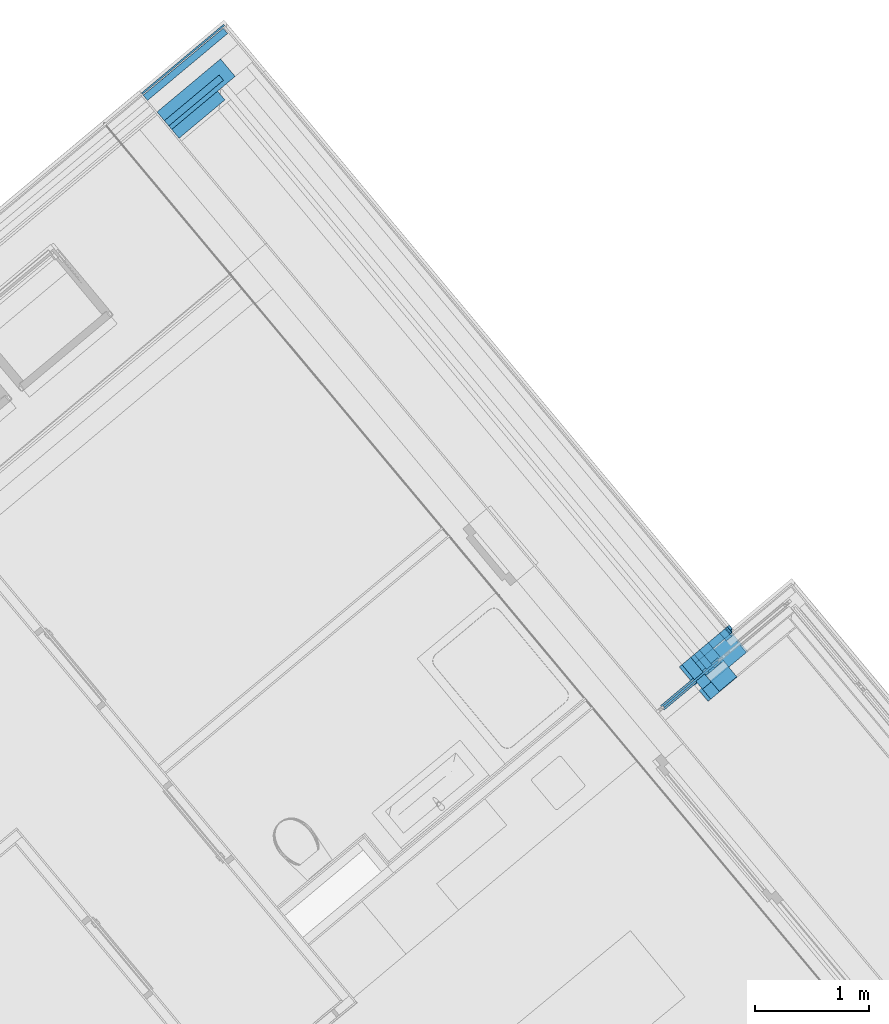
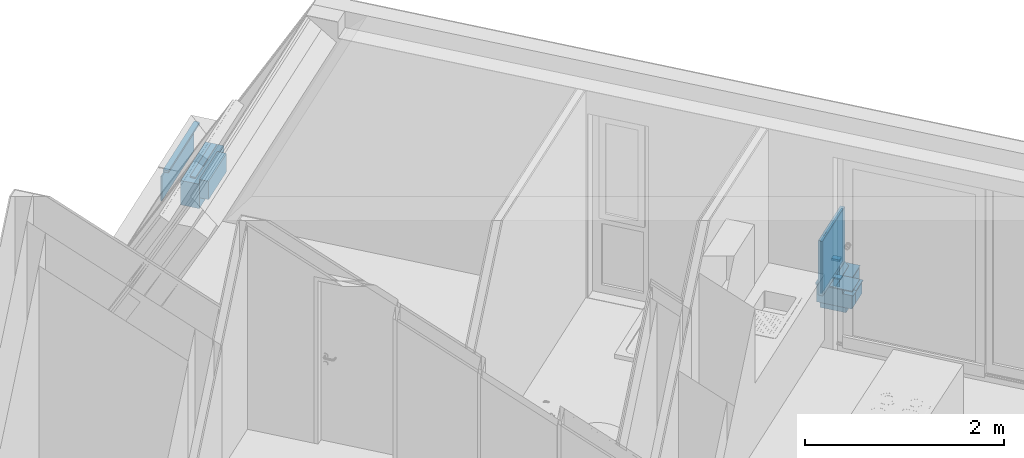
# One storey, part 50 of 61: 15 building element parts, 3 elements without a shape of their own.
"""IFC4 building model written with IfcOpenShell, lengths in metres."""

import ifcopenshell
import ifcopenshell.guid

model = None  # the IFC model being written
_history = None  # IfcOwnerHistory: only IFC2X3 demands one
_inside = {}  # id of a spatial element -> (the spatial element, [elements in it])
_under = {}  # id of a project, library or spatial element -> (it, [spatial elements below it])
_declared = {}  # id of a project -> (the project, [libraries it declares])
_typed = {}  # id of a type object -> (the type object, [elements of that type])
_made_of = {}  # id of a material, layer set ... -> (it, [elements and type objects made of it])


def new_model(schema):
    """Start an empty IFC model of exactly this schema.

    Asked for "IFC4X3", IfcOpenShell would pick the latest addendum, in which some entities
    have other attributes; the version numbers below select the first issue.
    IFC2X3 requires an IfcOwnerHistory on every rooted entity: one is made here for all.
    """
    global model, _history
    if schema == "IFC4X3":
        model = ifcopenshell.file(schema_version=(4, 3, 0, 0))
    else:
        model = ifcopenshell.file(schema=schema)
    _inside.clear()
    _under.clear()
    _declared.clear()
    _typed.clear()
    _made_of.clear()
    _history = None
    if model.schema == "IFC2X3":
        org = make("IfcOrganization", Name="unknown")
        user = make(
            "IfcPersonAndOrganization",
            ThePerson=make("IfcPerson", FamilyName="unknown"),
            TheOrganization=org,
        )
        app = make(
            "IfcApplication",
            ApplicationDeveloper=org,
            Version="unknown",
            ApplicationFullName="unknown",
            ApplicationIdentifier="unknown",
        )
        _history = make(
            "IfcOwnerHistory",
            OwningUser=user,
            OwningApplication=app,
            ChangeAction="ADDED",
            CreationDate=0,
        )
    return model


def make(cls, **values):
    """One entity of the class cls with the attributes given. An attribute that is None is left unset."""
    return model.create_entity(
        cls, **{name: value for name, value in values.items() if value is not None}
    )


def entity(cls, *values):
    """Any entity or typed value of the class cls, its attributes in the order of the schema. None: left unset."""
    e = model.create_entity(cls)
    for i, value in enumerate(values):
        if value is not None:
            e[i] = value
    return e


def rooted(cls, **values):
    """An entity with a GlobalId (a new one), such as an element, a storey or a relation."""
    return make(cls, GlobalId=ifcopenshell.guid.new(), OwnerHistory=_history, **values)


def si_unit(unit_type, name, prefix=None):
    """IfcSIUnit, for example si_unit("LENGTHUNIT", "METRE", prefix="MILLI")."""
    return make("IfcSIUnit", UnitType=unit_type, Prefix=prefix, Name=name)


def converted_unit(unit_type, name, factor, base, dimensions=None, offset=None):
    """IfcConversionBasedUnit, such as the inch: factor (a typed value) times the base unit."""
    return make(
        "IfcConversionBasedUnit"
        if offset is None
        else "IfcConversionBasedUnitWithOffset",
        ConversionOffset=offset,
        Dimensions=None
        if dimensions is None
        else entity("IfcDimensionalExponents", *dimensions),
        UnitType=unit_type,
        Name=name,
        ConversionFactor=make(
            "IfcMeasureWithUnit", ValueComponent=factor, UnitComponent=base
        ),
    )


def derived_unit(unit_type, elements):
    """IfcDerivedUnit: a product of units, each with its exponent."""
    return make(
        "IfcDerivedUnit",
        Elements=[
            make("IfcDerivedUnitElement", Unit=unit, Exponent=power)
            for unit, power in elements
        ],
        UnitType=unit_type,
    )


def assignment(units):
    """IfcUnitAssignment: the units of a project."""
    return None if units is None else make("IfcUnitAssignment", Units=units)


def point(xyz):
    """IfcCartesianPoint."""
    return None if xyz is None else make("IfcCartesianPoint", Coordinates=xyz)


def direction(xyz):
    """IfcDirection."""
    return None if xyz is None else make("IfcDirection", DirectionRatios=xyz)


def frame(location, z_axis=None, x_axis=None):
    """IfcAxis2Placement3D, a coordinate frame: its origin and axes. An axis left out is left unset."""
    return make(
        "IfcAxis2Placement3D",
        Location=point(location),
        Axis=direction(z_axis),
        RefDirection=direction(x_axis),
    )


def origin_with_axes():
    """The frame at (0, 0, 0) with the z axis (0, 0, 1) and the x axis (1, 0, 0) written out."""
    return frame((0.0, 0.0, 0.0), z_axis=(0.0, 0.0, 1.0), x_axis=(1.0, 0.0, 0.0))


def place(relative_to, where):
    """IfcLocalPlacement: puts the frame where relative to a parent placement (None: the world)."""
    return make(
        "IfcLocalPlacement", PlacementRelTo=relative_to, RelativePlacement=where
    )


def context(
    kind, dimensions, precision=None, world=None, true_north=None, identifier=None
):
    """IfcGeometricRepresentationContext, for example the 3D "Model" context."""
    return make(
        "IfcGeometricRepresentationContext",
        ContextIdentifier=identifier,
        ContextType=kind,
        CoordinateSpaceDimension=dimensions,
        Precision=precision,
        WorldCoordinateSystem=world,
        TrueNorth=true_north,
    )


def subcontext(parent, identifier, kind, view, scale=None):
    """IfcGeometricRepresentationSubContext, for example "Body" below "Model"."""
    return make(
        "IfcGeometricRepresentationSubContext",
        ContextIdentifier=identifier,
        ContextType=kind,
        ParentContext=parent,
        TargetScale=scale,
        TargetView=view,
    )


def project(units=None, contexts=None):
    """IfcProject with its units and contexts."""
    return rooted(
        "IfcProject",
        Name="project",
        RepresentationContexts=contexts,
        UnitsInContext=assignment(units),
    )


def spatial(cls, under=None, at=None, **own):
    """A site, building, storey or space (cls), placed at a placement, below another one or the project."""
    s = rooted(cls, ObjectPlacement=at, **own)
    if under is not None:
        _under.setdefault(under.id(), (under, []))[1].append(s)
    return s


def point_list(points):
    """IfcCartesianPointList2D or 3D."""
    cls = (
        "IfcCartesianPointList2D" if len(points[0]) == 2 else "IfcCartesianPointList3D"
    )
    return make(cls, CoordList=points)


def polygons(points, faces, closed=None, point_numbers=None):
    """IfcPolygonalFaceSet: a face is its outer loop, then its inner loops; points numbered from 1."""
    made = []
    for loops in faces:
        if len(loops) == 1:
            made.append(make("IfcIndexedPolygonalFace", CoordIndex=loops[0]))
        else:
            made.append(
                make(
                    "IfcIndexedPolygonalFaceWithVoids",
                    CoordIndex=loops[0],
                    InnerCoordIndices=loops[1:],
                )
            )
    return make(
        "IfcPolygonalFaceSet",
        Coordinates=point_list(points),
        Closed=closed,
        Faces=made,
        PnIndex=point_numbers,
    )


def shape(context_of_items, identifier, shape_type, items):
    """IfcShapeRepresentation: the items that make up one representation, for example the "Body"."""
    return make(
        "IfcShapeRepresentation",
        ContextOfItems=context_of_items,
        RepresentationIdentifier=identifier,
        RepresentationType=shape_type,
        Items=items,
    )


def material(Name=None, Category=None):
    """IfcMaterial."""
    return make("IfcMaterial", Name=Name, Category=Category)


def made_of(thing, what):
    """Note that an element or type object is made of a material, layer set ...; save() writes the relation."""
    if what is not None:
        _made_of.setdefault(what.id(), (what, []))[1].append(thing)
    return thing


def type_object(cls, material=None, **own):
    """A type object (cls), such as IfcWallType, which elements share."""
    return made_of(rooted(cls, **own), material)


def element(
    cls,
    number,
    at=None,
    inside=None,
    cuts=None,
    type_object=None,
    material=None,
    context=None,
    identifier="Body",
    shape_type=None,
    held_by="IfcProductDefinitionShape",
    body=None,
    shapes=None,
    **own,
):
    """One element of the class cls, such as IfcWall. Its Tag is "e" and its number.

    at: its placement. inside: the storey or other place that contains it. cuts: it is an
    opening in that element (IfcRelVoidsElement). A single representation is given by context,
    identifier, shape_type and body (its items); several are given by shapes. held_by: the class
    of the entity that holds the representations. save() writes the other relations.
    """
    e = rooted(cls, Tag="e%d" % number, ObjectPlacement=at, **own)
    if body is not None:
        shapes = [shape(context, identifier, shape_type, body)]
    if shapes is not None:
        e.Representation = make(held_by, Representations=shapes)
    if inside is not None:
        _inside.setdefault(inside.id(), (inside, []))[1].append(e)
    if cuts is not None:
        rooted(
            "IfcRelVoidsElement", RelatingBuildingElement=cuts, RelatedOpeningElement=e
        )
    if type_object is not None:
        _typed.setdefault(type_object.id(), (type_object, []))[1].append(e)
    return made_of(e, material)


def aggregate(whole, parts):
    """IfcRelAggregates: a whole, such as a stair, and the parts it consists of."""
    return rooted("IfcRelAggregates", RelatingObject=whole, RelatedObjects=parts)


def save(model, path):
    """Write the relations noted so far, then the file.

    IfcRelAggregates (storeys below a building ...), IfcRelContainedInSpatialStructure (elements
    in a storey), IfcRelDefinesByType, IfcRelAssociatesMaterial and IfcRelDeclares: one each for
    every whole, place, type object, material and project.
    """
    for whole, parts in _under.values():
        aggregate(whole, parts)
    for where, things in _inside.values():
        rooted(
            "IfcRelContainedInSpatialStructure",
            RelatedElements=things,
            RelatingStructure=where,
        )
    for kind, things in _typed.values():
        rooted("IfcRelDefinesByType", RelatedObjects=things, RelatingType=kind)
    for what, things in _made_of.values():
        rooted("IfcRelAssociatesMaterial", RelatedObjects=things, RelatingMaterial=what)
    for by, libraries in _declared.values():
        rooted("IfcRelDeclares", RelatingContext=by, RelatedDefinitions=libraries)
    model.write(path)


model = new_model("IFC4")

# Units and contexts
model_context = context("Model", 3, precision=1e-05, world=origin_with_axes(), true_north=direction((0.0, 1.0)))
body_context = subcontext(model_context, "Body", "Model", "MODEL_VIEW")
ifc_project = project(units=[si_unit("LENGTHUNIT", "METRE"), si_unit("AREAUNIT", "SQUARE_METRE"), si_unit("VOLUMEUNIT", "CUBIC_METRE"), converted_unit("PLANEANGLEUNIT", "DEGREE", entity("IfcPlaneAngleMeasure", 0.0174532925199), si_unit("PLANEANGLEUNIT", "RADIAN"), dimensions=[0, 0, 0, 0, 0, 0, 0]), converted_unit("TIMEUNIT", "Year", entity("IfcTimeMeasure", 31556926.0), si_unit("TIMEUNIT", "SECOND"), dimensions=[0, 0, 1, 0, 0, 0, 0]), si_unit("MASSUNIT", "GRAM", prefix="KILO"), si_unit("THERMODYNAMICTEMPERATUREUNIT", "DEGREE_CELSIUS"), si_unit("LUMINOUSINTENSITYUNIT", "LUMEN"), si_unit("ENERGYUNIT", "JOULE", prefix="MEGA"), derived_unit("THERMALCONDUCTANCEUNIT", [(si_unit("POWERUNIT", "WATT"), 1), (si_unit("LENGTHUNIT", "METRE"), -1), (si_unit("THERMODYNAMICTEMPERATUREUNIT", "KELVIN"), -1)]), derived_unit("SPECIFICHEATCAPACITYUNIT", [(si_unit("ENERGYUNIT", "JOULE"), 1), (si_unit("MASSUNIT", "GRAM", prefix="KILO"), -1), (si_unit("THERMODYNAMICTEMPERATUREUNIT", "KELVIN"), -1)]), derived_unit("MASSDENSITYUNIT", [(si_unit("MASSUNIT", "GRAM", prefix="KILO"), 1), (si_unit("VOLUMEUNIT", "CUBIC_METRE"), -1)])], contexts=[model_context])

# Site, building, storey
site_placement = place(None, frame((-0.00153261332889, -0.00661245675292, 0.0), z_axis=(0.0, 0.0, 1.0), x_axis=(1.0, 0.0, 0.0)))
site = spatial("IfcSite", under=ifc_project, at=site_placement, Name="Gelände", CompositionType="ELEMENT")
building_placement = place(site_placement, origin_with_axes())
building = spatial("IfcBuilding", under=site, at=building_placement, Name="Gebäude", CompositionType="ELEMENT")
storey_placement = place(building_placement, frame((0.0, 0.0, 5.7), z_axis=(0.0, 0.0, 1.0), x_axis=(1.0, 0.0, 0.0)))
storey = spatial("IfcBuildingStorey", under=building, at=storey_placement, Name="DG1", CompositionType="ELEMENT", Elevation=5.7)

# Wall, building element parts
wall_type = type_object("IfcWallType", Name="Bauteil - Attika Terrasse 1.DG 574 x 410", PredefinedType="NOTDEFINED")
wall_1_placement = place(storey_placement, frame((9.8973799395, 25.5957671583, -0.2), z_axis=(0.0, 0.0, 1.0), x_axis=(0.641209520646, -0.767365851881, 0.0)))
wall_1 = element("IfcWall", 1, at=wall_1_placement, inside=storey, type_object=wall_type, Name="Wand-003", PredefinedType="NOTDEFINED")
ifc_material_1 = material(Name="Zementputz")
building_element_part_1_placement = place(wall_1_placement, origin_with_axes())
building_element_part_1 = element("IfcBuildingElementPart", 2, at=building_element_part_1_placement, material=ifc_material_1, Name="Zementputz", PredefinedType="NOTDEFINED", context=body_context, shape_type="Tessellation", body=[
    polygons([(0.0650006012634, 0.199999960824, 0.500000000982), (0.0650006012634, 0.214999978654, 0.500000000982), (0.0, 0.214999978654, 0.499999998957), (0.0, 0.199999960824, 0.499999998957), (0.0650006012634, 0.214999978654, 0.498915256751), (0.0650006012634, 0.199999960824, 0.498915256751), (0.0650006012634, 0.214999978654, 0.498822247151), (0.0650006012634, 0.214999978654, 0.496604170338), (0.0650006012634, 0.214999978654, 0.49100648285), (0.0650006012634, 0.214999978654, 0.488695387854), (0.0650006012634, 0.214999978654, 0.334999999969), (0.0650006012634, 0.214999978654, 0.2), (0.0, 0.214999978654, 0.2), (0.0, 0.199999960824, 0.2), (0.0650006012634, 0.199999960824, 0.2), (0.0650006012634, 0.199999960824, 0.334999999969), (0.0650006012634, 0.199999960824, 0.488695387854), (0.0650006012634, 0.199999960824, 0.49100648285), (0.0650006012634, 0.199999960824, 0.496604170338), (0.0650006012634, 0.199999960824, 0.498822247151)], [[[1, 2, 3, 4]], [[5, 2, 1, 6]], [[2, 5, 7, 8, 9, 10, 11, 12, 13, 3]], [[13, 14, 4, 3]], [[6, 1, 4, 14, 15, 16, 17, 18, 19, 20]], [[5, 6, 20, 7]], [[7, 20, 19, 8]], [[8, 19, 18, 9]], [[9, 18, 17, 10]], [[10, 17, 16, 11]], [[11, 16, 15, 12]], [[12, 15, 14, 13]]], closed=True),
])
ifc_material_2 = material(Name="Vollholz")
building_element_part_2_placement = place(wall_1_placement, origin_with_axes())
building_element_part_2 = element("IfcBuildingElementPart", 3, at=building_element_part_2_placement, material=ifc_material_2, Name="Vollholz", PredefinedType="NOTDEFINED", context=body_context, shape_type="Tessellation", body=[
    polygons([(0.0900156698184, 0.189984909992, 0.586106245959), (0.0900044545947, 0.189996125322, 0.584015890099), (0.0899932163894, 0.190007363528, 0.581921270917), (0.0899819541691, 0.190018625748, 0.57982217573), (0.0899613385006, 0.190039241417, 0.575979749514), (0.0899591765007, 0.190041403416, 0.575576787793), (0.0899500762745, 0.190050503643, 0.573880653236), (0.0899182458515, 0.190082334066, 0.567947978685), (0.0898756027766, 0.190124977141, 0.560000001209), (0.0, 0.190124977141, 0.560000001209), (0.0, 0.189984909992, 0.586106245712), (0.0900044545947, 0.130124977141, 0.584015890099), (0.0899932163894, 0.130124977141, 0.581921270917), (0.0899819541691, 0.130124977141, 0.57982217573), (0.0899613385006, 0.130124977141, 0.575979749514), (0.0899591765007, 0.130124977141, 0.575576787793), (0.0899500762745, 0.130124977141, 0.573880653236), (0.0899182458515, 0.130124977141, 0.567947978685), (0.0898756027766, 0.130124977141, 0.560000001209), (0.0, 0.130124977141, 0.560000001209), (0.0, 0.130124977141, 0.584015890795)], [[[1, 2, 3, 4, 5, 6, 7, 8, 9, 10, 11]], [[12, 2, 1]], [[2, 12, 13, 3]], [[3, 13, 14, 4]], [[4, 14, 15, 5]], [[5, 15, 16, 6]], [[6, 16, 17, 7]], [[7, 17, 18, 8]], [[8, 18, 19, 9]], [[9, 19, 20, 10]], [[21, 11, 10, 20]], [[12, 1, 11, 21]], [[13, 12, 21, 20, 19, 18, 17, 16, 15, 14]]], closed=True),
])
ifc_material_3 = material(Name="EPS 1")
building_element_part_3_placement = place(wall_1_placement, origin_with_axes())
building_element_part_3 = element("IfcBuildingElementPart", 4, at=building_element_part_3_placement, material=ifc_material_3, Name="EPS 1", PredefinedType="NOTDEFINED", context=body_context, shape_type="Tessellation", body=[
    polygons([(0.280000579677, 2.39904096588e-10, 0.499999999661), (0.280000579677, 0.19999996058, 0.499999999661), (0.0, 0.19999996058, 0.499999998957), (0.0, 2.39907649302e-10, 0.499999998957), (0.280000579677, 0.19999996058, 0.498915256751), (0.280000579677, 2.39904096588e-10, 0.498915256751), (0.280000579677, 0.19999996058, 0.498822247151), (0.280000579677, 0.19999996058, 0.496604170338), (0.280000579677, 0.19999996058, 0.49100648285), (0.280000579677, 0.19999996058, 0.488695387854), (0.280000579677, 0.19999996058, 0.334999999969), (0.2800005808, 0.19999996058, 0.199999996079), (0.0, 0.19999996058, 0.2), (0.0, 2.39907649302e-10, 0.2), (0.2800005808, 2.39904096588e-10, 0.199999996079), (0.280000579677, 2.39904096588e-10, 0.334999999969), (0.280000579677, 2.39904096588e-10, 0.488695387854), (0.280000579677, 2.39904096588e-10, 0.49100648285), (0.280000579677, 2.39904096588e-10, 0.496604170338), (0.280000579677, 2.39904096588e-10, 0.498822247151)], [[[1, 2, 3, 4]], [[5, 2, 1, 6]], [[2, 5, 7, 8, 9, 10, 11, 12, 13, 3]], [[14, 4, 3, 13]], [[6, 1, 4, 14, 15, 16, 17, 18, 19, 20]], [[5, 6, 20, 7]], [[7, 20, 19, 8]], [[8, 19, 18, 9]], [[9, 18, 17, 10]], [[10, 17, 16, 11]], [[11, 16, 15, 12]], [[13, 12, 15, 14]]], closed=True),
])
ifc_material_4 = material(Name="Brettschichtholz")
building_element_part_4_placement = place(wall_1_placement, origin_with_axes())
building_element_part_4 = element("IfcBuildingElementPart", 5, at=building_element_part_4_placement, material=ifc_material_4, Name="Brettschichtholz", PredefinedType="NOTDEFINED", context=body_context, shape_type="Tessellation", body=[
    polygons([(0.0650006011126, 0.190124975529, 0.560000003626), (0.0650006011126, 0.214999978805, 0.560000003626), (0.0, 0.214999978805, 0.559999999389), (0.0, 0.190124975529, 0.559999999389), (0.0650006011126, 0.214999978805, 0.519273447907), (0.0650006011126, 0.130124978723, 0.560000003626), (0.0650006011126, -0.100000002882, 0.560000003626), (0.0650006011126, -0.159999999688, 0.560000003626), (0.0650006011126, -0.200000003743, 0.560000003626), (0.0650006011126, -0.200000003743, 0.519273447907), (0.0650006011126, 0.214999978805, 0.519224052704), (0.0650006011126, 0.214999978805, 0.511410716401), (0.280000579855, 0.214999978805, 0.511410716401), (0.280000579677, 0.214999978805, 0.511361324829), (0.0650006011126, 0.214999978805, 0.511361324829), (0.0650006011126, 0.214999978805, 0.509099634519), (0.280000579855, 0.214999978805, 0.509099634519), (0.280000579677, 0.214999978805, 0.50905023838), (0.0650006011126, 0.214999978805, 0.50905023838), (0.0650006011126, 0.214999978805, 0.506731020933), (0.0650006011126, 0.214999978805, 0.499999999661), (0.0, 0.214999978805, 0.499999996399), (0.0, 0.130124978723, 0.559999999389), (0.0, -0.200000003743, 0.500000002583), (0.0, -0.200000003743, 0.559999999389), (0.0, -0.159999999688, 0.559999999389), (0.0, -0.100000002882, 0.559999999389), (0.0650006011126, -0.200000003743, 0.499999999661), (0.0650006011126, -0.200000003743, 0.506731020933), (0.0650006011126, -0.200000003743, 0.50905023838), (0.280000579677, -0.200000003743, 0.50905023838), (0.280000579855, -0.200000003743, 0.509099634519), (0.0650006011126, -0.200000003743, 0.509099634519), (0.0650006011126, -0.200000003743, 0.511361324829), (0.280000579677, -0.200000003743, 0.511361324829), (0.280000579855, -0.200000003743, 0.511410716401), (0.0650006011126, -0.200000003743, 0.511410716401), (0.0650006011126, -0.200000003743, 0.519224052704)], [[[1, 2, 3, 4]], [[5, 2, 1, 6, 7, 8, 9, 10]], [[2, 5, 11, 12, 13, 14, 15, 16, 17, 18, 19, 20, 21, 22, 3]], [[23, 4, 3, 22, 24, 25, 26, 27]], [[6, 1, 4, 23]], [[7, 6, 23, 27]], [[8, 7, 27, 26]], [[9, 8, 26, 25]], [[10, 9, 25, 24, 28, 29, 30, 31, 32, 33, 34, 35, 36, 37, 38]], [[5, 10, 38, 11]], [[11, 38, 37, 12]], [[36, 13, 12, 37]], [[13, 36, 35, 14]], [[14, 35, 34, 15]], [[16, 15, 34, 33]], [[32, 17, 16, 33]], [[17, 32, 31, 18]], [[18, 31, 30, 19]], [[20, 19, 30, 29]], [[20, 29, 28, 21]], [[21, 28, 24, 22]]], closed=True),
])
ifc_material_5 = material(Name="Stahlbeton")
building_element_part_5_placement = place(wall_1_placement, origin_with_axes())
building_element_part_5 = element("IfcBuildingElementPart", 6, at=building_element_part_5_placement, material=ifc_material_5, Name="Stahlbeton", PredefinedType="NOTDEFINED", context=body_context, shape_type="Tessellation", body=[
    polygons([(0.389248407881, -1.82836146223e-09, 0.499999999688), (0.390333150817, -1.82836501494e-09, 0.498915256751), (0.390426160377, -1.82836146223e-09, 0.498822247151), (0.392644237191, -1.82836146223e-09, 0.496604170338), (0.380000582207, -1.82835790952e-09, 0.49660417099), (0.380000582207, -1.82835790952e-09, 0.334999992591), (0.2800005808, -1.82836146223e-09, 0.334999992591), (0.2800005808, -1.82835790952e-09, 0.199999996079), (0.0, -1.82836146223e-09, 0.2), (0.0, -1.82836146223e-09, 0.500000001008), (0.390333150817, -0.199999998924, 0.498915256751), (0.389248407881, -0.199999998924, 0.499999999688), (0.390426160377, -0.199999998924, 0.498822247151), (0.392644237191, -0.199999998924, 0.496604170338), (0.380000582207, -0.199999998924, 0.49660417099), (0.380000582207, -0.199999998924, 0.334999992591), (0.2800005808, -0.199999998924, 0.334999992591), (0.2800005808, -0.199999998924, 0.199999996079), (0.0, -0.199999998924, 0.2), (0.0, -0.199999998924, 0.335000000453), (0.0, -0.199999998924, 0.500000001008)], [[[1, 2, 3, 4, 5, 6, 7, 8, 9, 10]], [[11, 2, 1, 12]], [[2, 11, 13, 3]], [[3, 13, 14, 4]], [[4, 14, 15, 5]], [[16, 6, 5, 15]], [[17, 7, 6, 16]], [[18, 8, 7, 17]], [[9, 8, 18, 19]], [[20, 21, 10, 9, 19]], [[12, 1, 10, 21]], [[11, 12, 21, 20, 17, 16, 15, 14, 13]], [[19, 18, 17, 20]]], closed=True),
])
building_element_part_6_placement = place(wall_1_placement, origin_with_axes())
building_element_part_6 = element("IfcBuildingElementPart", 7, at=building_element_part_6_placement, material=ifc_material_2, Name="Vollholz", PredefinedType="NOTDEFINED", context=body_context, shape_type="Tessellation", body=[
    polygons([(0.209857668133, -0.11153931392, 0.575576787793), (0.209857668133, -0.1, 0.575979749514), (0.0, -0.1, 0.575979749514), (0.0, -0.160110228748, 0.573880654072), (0.209857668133, -0.160110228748, 0.573880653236), (0.209857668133, -0.1, 0.575576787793), (0.209857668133, -0.1, 0.573880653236), (0.209857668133, -0.1, 0.567947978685), (0.209857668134, -0.1, 0.560000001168), (0.0, -0.1, 0.560000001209), (0.0, -0.16, 0.560000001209), (0.209857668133, -0.160063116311, 0.567947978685), (0.209857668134, -0.16, 0.560000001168)], [[[1, 2, 3, 4, 5]], [[6, 2, 1]], [[2, 6, 7, 8, 9, 10, 3]], [[4, 3, 10, 11]], [[12, 5, 4, 11, 13]], [[6, 1, 5, 7]], [[7, 5, 12, 8]], [[8, 12, 13, 9]], [[9, 13, 11, 10]]], closed=True),
])
building_element_part_7_placement = place(wall_1_placement, origin_with_axes())
building_element_part_7 = element("IfcBuildingElementPart", 8, at=building_element_part_7_placement, material=ifc_material_3, Name="EPS 1", PredefinedType="NOTDEFINED", context=body_context, shape_type="Tessellation", body=[
    polygons([(0.280000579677, -0.3, 0.560000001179), (0.280000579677, -0.2, 0.560000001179), (0.0, -0.2, 0.560000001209), (0.0, -0.3, 0.560000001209), (0.280000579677, -0.2, 0.519273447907), (0.280000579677, -0.3, 0.519273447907), (0.280000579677, -0.2, 0.519224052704), (0.280000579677, -0.2, 0.511410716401), (0.280000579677, -0.2, 0.511361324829), (0.280000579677, -0.2, 0.509099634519), (0.280000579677, -0.2, 0.50905023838), (0.280000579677, -0.2, 0.506731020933), (0.280000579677, -0.2, 0.499999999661), (0.380000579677, -0.2, 0.499999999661), (0.389248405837, -0.2, 0.499999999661), (0.391162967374, -0.2, 0.499999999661), (0.392247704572, -0.2, 0.499999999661), (0.393601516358, -0.2, 0.499999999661), (0.393601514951, -0.2, 0.497561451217), (0.392644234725, -0.2, 0.49660417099), (0.380000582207, -0.2, 0.49660417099), (0.380000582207, -0.2, 0.334999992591), (0.0, -0.2, 0.335), (0.0, -0.3, 0.335), (0.380000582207, -0.3, 0.334999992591), (0.380000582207, -0.3, 0.49660417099), (0.392644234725, -0.3, 0.49660417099), (0.393601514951, -0.3, 0.497561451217), (0.393601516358, -0.3, 0.499999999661), (0.392247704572, -0.3, 0.499999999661), (0.391162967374, -0.3, 0.499999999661), (0.389248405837, -0.3, 0.499999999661), (0.380000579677, -0.3, 0.499999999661), (0.280000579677, -0.3, 0.499999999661), (0.280000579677, -0.3, 0.506731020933), (0.280000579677, -0.3, 0.50905023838), (0.280000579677, -0.3, 0.509099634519), (0.280000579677, -0.3, 0.511361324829), (0.280000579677, -0.3, 0.511410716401), (0.280000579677, -0.3, 0.519224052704)], [[[1, 2, 3, 4]], [[5, 2, 1, 6]], [[2, 5, 7, 8, 9, 10, 11, 12, 13, 14, 15, 16, 17, 18, 19, 20, 21, 22, 23, 3]], [[24, 4, 3, 23]], [[6, 1, 4, 24, 25, 26, 27, 28, 29, 30, 31, 32, 33, 34, 35, 36, 37, 38, 39, 40]], [[5, 6, 40, 7]], [[7, 40, 39, 8]], [[8, 39, 38, 9]], [[9, 38, 37, 10]], [[10, 37, 36, 11]], [[11, 36, 35, 12]], [[12, 35, 34, 13]], [[33, 14, 13, 34]], [[14, 33, 32, 15]], [[15, 32, 31, 16]], [[16, 31, 30, 17]], [[17, 30, 29, 18]], [[18, 29, 28, 19]], [[27, 20, 19, 28]], [[26, 21, 20, 27]], [[25, 22, 21, 26]], [[23, 22, 25, 24]]], closed=True),
])
ifc_material_6 = material(Name="Holzwerkstoff")
building_element_part_8_placement = place(wall_1_placement, origin_with_axes())
building_element_part_8 = element("IfcBuildingElementPart", 9, at=building_element_part_8_placement, material=ifc_material_6, Name="Holzwerkstoff", PredefinedType="NOTDEFINED", context=body_context, shape_type="Tessellation", body=[
    polygons([(0.380000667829, -0.330280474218, 0.575979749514), (0.391539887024, -0.330266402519, 0.575576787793), (0.391539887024, -0.111539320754, 0.575576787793), (0.380000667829, -0.10000001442, 0.575979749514), (0.269946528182, -0.330280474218, 0.575979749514), (0.209857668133, -0.330280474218, 0.575979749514), (0.209857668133, -0.330414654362, 0.579822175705), (0.209857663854, -0.330487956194, 0.581921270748), (0.149875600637, -0.3305611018, 0.584015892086), (0.0900156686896, -0.330634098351, 0.586106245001), (0.0400005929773, -0.330695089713, 0.587852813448), (0.0400035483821, -0.330698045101, 0.587937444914), (0.0, -0.330698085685, 0.587938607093), (0.0, -0.329999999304, 0.567947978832), (0.392247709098, -0.329999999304, 0.567947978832), (0.392247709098, -0.330207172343, 0.573880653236), (0.392247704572, -0.330266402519, 0.575576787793), (0.392247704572, -0.111539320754, 0.575576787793), (0.0, -0.160110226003, 0.573880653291), (0.0, -0.100000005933, 0.575979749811), (0.209857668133, -0.10000001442, 0.575979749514), (0.269946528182, -0.10000001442, 0.575979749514), (0.392247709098, -0.160110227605, 0.573880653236), (0.209857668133, 0.0100327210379, 0.579822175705), (0.209857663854, 0.0701429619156, 0.581921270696), (0.149875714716, 0.130124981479, 0.584015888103), (0.0900158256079, 0.189984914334, 0.586106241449), (0.0400007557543, 0.239999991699, 0.587852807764), (0.0400035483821, 0.239997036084, 0.587937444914), (0.0402797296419, -0.112247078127, 0.595846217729), (0.0407240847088, 0.239276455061, 0.608570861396), (0.0, 0.239276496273, 0.608570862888), (0.0, 0.239999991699, 0.587852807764), (0.0, 0.189984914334, 0.586106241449), (0.0, 0.130124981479, 0.584015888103), (0.0402797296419, 0.239720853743, 0.595846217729)], [[[1, 2, 3, 4]], [[5, 6, 7, 8, 9, 10, 11, 12, 13, 14, 15, 16, 17, 2, 1]], [[2, 17, 18, 3]], [[19, 20, 21, 22, 4, 3, 18, 23]], [[5, 1, 4, 22]], [[6, 5, 22, 21]], [[7, 6, 21, 24]], [[8, 7, 24, 25]], [[9, 8, 25, 26]], [[10, 9, 26, 27]], [[11, 10, 27, 28]], [[12, 11, 28, 29]], [[13, 12, 30, 31, 32]], [[14, 13, 32, 33, 34, 35, 20, 19]], [[14, 19, 23, 15]], [[15, 23, 16]], [[17, 16, 23, 18]], [[21, 20, 35, 26, 25, 24]], [[35, 34, 27, 26]], [[27, 34, 33, 28]], [[29, 28, 33, 32, 31, 36]], [[30, 12, 29, 36]], [[30, 36, 31]]], closed=True),
])
aggregate(wall_1, [building_element_part_1, building_element_part_2, building_element_part_3, building_element_part_4, building_element_part_5, building_element_part_6, building_element_part_7, building_element_part_8])

wall_2_placement = place(storey_placement, frame((5.07730037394, 30.2362941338, -0.2), z_axis=(0.0, 0.0, 1.0), x_axis=(0.767365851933, 0.641209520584, 0.0)))
wall_2 = element("IfcWall", 10, at=wall_2_placement, inside=storey, type_object=wall_type, Name="Wand-002", PredefinedType="NOTDEFINED")
building_element_part_9_placement = place(wall_2_placement, origin_with_axes())
building_element_part_9 = element("IfcBuildingElementPart", 11, at=building_element_part_9_placement, material=ifc_material_1, Name="Zementputz", PredefinedType="NOTDEFINED", context=body_context, shape_type="Tessellation", body=[
    polygons([(0.938189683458, 0.199999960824, 0.2), (0.938189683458, 0.199999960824, 0.499999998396), (0.0, 0.199999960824, 0.499999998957), (0.0, 0.199999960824, 0.2), (0.938189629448, 0.214999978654, 0.2), (0.938189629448, 0.214999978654, 0.499999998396), (0.0, 0.214999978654, 0.499999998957), (0.0, 0.214999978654, 0.2)], [[[1, 2, 3, 4]], [[2, 1, 5, 6]], [[2, 6, 7, 3]], [[4, 3, 7, 8]], [[5, 1, 4, 8]], [[6, 5, 8, 7]]], closed=True),
])
building_element_part_10_placement = place(wall_2_placement, origin_with_axes())
building_element_part_10 = element("IfcBuildingElementPart", 12, at=building_element_part_10_placement, material=ifc_material_2, Name="Vollholz", PredefinedType="NOTDEFINED", context=body_context, shape_type="Tessellation", body=[
    polygons([(0.913185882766, 0.189996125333, 0.584015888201), (0.913186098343, 0.130124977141, 0.584015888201), (0.913229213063, 0.130124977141, 0.575979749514), (0.91322899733, 0.190039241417, 0.575979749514), (0.913174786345, 0.189984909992, 0.58610624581), (0.0, 0.130124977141, 0.584015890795), (0.0, 0.130124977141, 0.560000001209), (0.913314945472, 0.130124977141, 0.559999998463), (0.913272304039, 0.130124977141, 0.567947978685), (0.913240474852, 0.130124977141, 0.573880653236), (0.913240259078, 0.190050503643, 0.573880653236), (0.913272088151, 0.190082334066, 0.567947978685), (0.913314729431, 0.190124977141, 0.559999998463), (0.0, 0.190124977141, 0.560000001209), (0.0, 0.189984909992, 0.586106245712)], [[[1, 2, 3, 4]], [[5, 2, 1]], [[3, 2, 6, 7, 8, 9, 10]], [[4, 3, 10, 11]], [[5, 1, 4, 11, 12, 13, 14, 15]], [[2, 5, 15, 6]], [[6, 15, 14, 7]], [[13, 8, 7, 14]], [[12, 9, 8, 13]], [[11, 10, 9, 12]]], closed=True),
])
building_element_part_11_placement = place(wall_2_placement, origin_with_axes())
building_element_part_11 = element("IfcBuildingElementPart", 13, at=building_element_part_11_placement, material=ifc_material_5, Name="Stahlbeton", PredefinedType="NOTDEFINED", context=body_context, shape_type="Tessellation", body=[
    polygons([(0.723191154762, -0.199999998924, 0.498822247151), (0.723191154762, -0.199999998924, 0.499999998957), (0.0, -0.199999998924, 0.500000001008), (0.0, -0.199999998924, 0.335000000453), (0.723191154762, -0.199999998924, 0.335), (0.723191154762, -0.199999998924, 0.488695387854), (0.723191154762, -0.199999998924, 0.49100648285), (0.723190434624, -1.8283543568e-09, 0.499999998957), (0.723190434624, -1.8283543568e-09, 0.498822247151), (0.0, -1.82835080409e-09, 0.500000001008), (0.0, -1.82835080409e-09, 0.2), (0.0, -0.199999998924, 0.2), (0.723191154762, -0.199999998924, 0.2), (0.723190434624, -1.8283543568e-09, 0.488695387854), (0.723190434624, -1.8283543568e-09, 0.335), (0.723190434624, -1.8283543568e-09, 0.49100648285), (0.723190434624, -1.8283543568e-09, 0.2)], [[[1, 2, 3, 4, 5, 6, 7]], [[8, 2, 1, 9]], [[2, 8, 10, 3]], [[4, 3, 10, 11, 12]], [[13, 5, 4, 12]], [[14, 6, 5, 15]], [[16, 7, 6, 14]], [[9, 1, 7, 16]], [[8, 9, 16, 14, 15, 17, 11, 10]], [[17, 13, 12, 11]], [[15, 5, 13, 17]]], closed=True),
])
building_element_part_12_placement = place(wall_2_placement, origin_with_axes())
building_element_part_12 = element("IfcBuildingElementPart", 14, at=building_element_part_12_placement, material=ifc_material_2, Name="Vollholz", PredefinedType="NOTDEFINED", context=body_context, shape_type="Tessellation", body=[
    polygons([(0.62319079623, -0.1, 0.573880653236), (0.623191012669, -0.160110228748, 0.573880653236), (0.623191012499, -0.160063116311, 0.567947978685), (0.62319079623, -0.1, 0.567947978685), (0.62319079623, -0.1, 0.575979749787), (0.0, -0.160110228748, 0.573880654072), (0.0, -0.16, 0.560000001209), (0.623191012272, -0.16, 0.559999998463), (0.62319079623, -0.1, 0.559999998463), (0.0, -0.1, 0.560000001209), (0.0, -0.1, 0.575979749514)], [[[1, 2, 3, 4]], [[5, 2, 1]], [[3, 2, 6, 7, 8]], [[4, 3, 8, 9]], [[5, 1, 4, 9, 10, 11]], [[2, 5, 11, 6]], [[6, 11, 10, 7]], [[9, 8, 7, 10]]], closed=True),
])
building_element_part_13_placement = place(wall_2_placement, origin_with_axes())
building_element_part_13 = element("IfcBuildingElementPart", 15, at=building_element_part_13_placement, material=ifc_material_3, Name="EPS 1", PredefinedType="NOTDEFINED", context=body_context, shape_type="Tessellation", body=[
    polygons([(0.523191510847, -0.3, 0.519224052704), (0.523191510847, -0.3, 0.559999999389), (0.0, -0.3, 0.560000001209), (0.0, -0.3, 0.335), (0.523191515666, -0.3, 0.335), (0.523191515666, -0.3, 0.488695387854), (0.523191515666, -0.3, 0.49100648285), (0.523191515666, -0.3, 0.498822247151), (0.523191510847, -0.3, 0.500000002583), (0.523191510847, -0.3, 0.50905023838), (0.523191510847, -0.3, 0.511361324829), (0.523191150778, -0.2, 0.559999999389), (0.523191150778, -0.2, 0.519224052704), (0.0, -0.2, 0.560000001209), (0.0, -0.2, 0.335), (0.523191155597, -0.2, 0.335), (0.523191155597, -0.2, 0.488695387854), (0.523191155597, -0.2, 0.49100648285), (0.523191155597, -0.2, 0.498822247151), (0.523191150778, -0.2, 0.500000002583), (0.523191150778, -0.2, 0.50905023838), (0.523191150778, -0.2, 0.511361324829)], [[[1, 2, 3, 4, 5, 6, 7, 8, 9, 10, 11]], [[12, 2, 1, 13]], [[2, 12, 14, 3]], [[4, 3, 14, 15]], [[16, 5, 4, 15]], [[17, 6, 5, 16]], [[18, 7, 6, 17]], [[19, 8, 7, 18]], [[20, 9, 8, 19]], [[21, 10, 9, 20]], [[22, 11, 10, 21]], [[13, 1, 11, 22]], [[12, 13, 22, 21, 20, 19, 18, 17, 16, 15, 14]]], closed=True),
])
aggregate(wall_2, [building_element_part_9, building_element_part_10, building_element_part_11, building_element_part_12, building_element_part_13])

# Space
space_placement = place(storey_placement, frame((9.89495575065, 25.0808160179, 0.22), z_axis=(0.0, 0.0, 1.0), x_axis=(-0.767365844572, -0.641209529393, 0.0)))
space = spatial("IfcSpace", under=storey, at=space_placement, CompositionType="ELEMENT", PredefinedType="NOTDEFINED")

# Railing, building element parts
railing_type = type_object("IfcRailingType", Name="Geländerart", PredefinedType="NOTDEFINED")
railing_placement = place(space_placement, frame((0.391162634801, 5.51606821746, 0.16), z_axis=(0.0, 0.0, 1.0), x_axis=(-0.767365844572, 0.641209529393, 0.0)))
railing = element("IfcRailing", 16, at=railing_placement, inside=space, type_object=railing_type, Name="Geländer - 001", PredefinedType="NOTDEFINED")
ifc_material_7 = material(Name="Profilit")
building_element_part_14_placement = place(railing_placement, origin_with_axes())
building_element_part_14 = element("IfcBuildingElementPart", 17, at=building_element_part_14_placement, material=ifc_material_7, Name="Profilit", PredefinedType="NOTDEFINED", context=body_context, shape_type="Tessellation", body=[
    polygons([(-3.61762754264, 4.4307574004, 0.135), (-3.1418029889, 4.82835553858, 0.135), (-3.1418029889, 4.82835553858, 0.775), (-3.61762754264, 4.4307574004, 0.775), (-3.15462717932, 4.84370285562, 0.135), (-3.63045173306, 4.44610471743, 0.135), (-3.15462717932, 4.84370285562, 0.775), (-3.63045173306, 4.44610471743, 0.775)], [[[1, 2, 3, 4]], [[5, 2, 1, 6]], [[7, 3, 2, 5]], [[4, 3, 7, 8]], [[1, 4, 8, 6]], [[7, 5, 6, 8]]], closed=True),
])
ifc_material_8 = material(Name="Aluminium")
building_element_part_15_placement = place(railing_placement, origin_with_axes())
building_element_part_15 = element("IfcBuildingElementPart", 18, at=building_element_part_15_placement, material=ifc_material_8, Name="Aluminium", PredefinedType="NOTDEFINED", context=body_context, shape_type="Tessellation", body=[
    polygons([(-3.21183815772, 4.77960797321, 0.12), (-3.26555376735, 4.73472330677, 0.12), (-3.26555376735, 4.73472330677, 0.095), (-3.21183815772, 4.77960797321, 0.095), (-3.21504420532, 4.78344480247, 0.12), (-3.26875981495, 4.73856013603, 0.12), (-3.26875981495, 4.73856013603, 0.095), (-3.21504420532, 4.78344480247, 0.095)], [[[1, 2, 3, 4]], [[5, 6, 2, 1]], [[2, 6, 7, 3]], [[4, 3, 7, 8]], [[1, 4, 8, 5]], [[8, 7, 6, 5]]], closed=True),
    polygons([(-3.55721051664, 4.49101545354, 0.79), (-3.50349490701, 4.53590011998, 0.79), (-3.50349490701, 4.53590011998, 0.795), (-3.55721051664, 4.49101545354, 0.795), (-3.56041656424, 4.4948522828, 0.79), (-3.50670095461, 4.53973694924, 0.79), (-3.50670095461, 4.53973694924, 0.795), (-3.56041656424, 4.4948522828, 0.795)], [[[1, 2, 3, 4]], [[5, 6, 2, 1]], [[2, 6, 7, 3]], [[4, 3, 7, 8]], [[1, 4, 8, 5]], [[8, 7, 6, 5]]], closed=True),
    polygons([(-3.15273483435, 4.86483148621, 0.12), (-3.12067435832, 4.82646319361, 0.12), (-3.61951988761, 4.40962876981, 0.12), (-3.65158036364, 4.4479970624, 0.12), (-3.16808215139, 4.85200729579, 0.14), (-3.15846400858, 4.84049680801, 0.14), (-3.15462717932, 4.84370285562, 0.135), (-3.1418029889, 4.82835553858, 0.135), (-3.14563981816, 4.82514949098, 0.14), (-3.13602167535, 4.8136390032, 0.14), (-3.60417257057, 4.42245296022, 0.14), (-3.60417257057, 4.42245296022, 0.77), (-3.13602167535, 4.8136390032, 0.77), (-3.13602167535, 4.8136390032, 0.14), (-3.12067435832, 4.82646319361, 0.12), (-3.12067435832, 4.82646319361, 0.79), (-3.61951988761, 4.40962876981, 0.79), (-3.65158036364, 4.4479970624, 0.79), (-3.15273483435, 4.86483148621, 0.79), (-3.15273483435, 4.86483148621, 0.12), (-3.16808215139, 4.85200729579, 0.14), (-3.16808215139, 4.85200729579, 0.77), (-3.63623304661, 4.46082125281, 0.77), (-3.63623304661, 4.46082125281, 0.14), (-3.6266149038, 4.44931076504, 0.14), (-3.6266149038, 4.44931076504, 0.77), (-3.15846400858, 4.84049680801, 0.77), (-3.15846400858, 4.84049680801, 0.14), (-3.15462717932, 4.84370285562, 0.135), (-3.15462717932, 4.84370285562, 0.775), (-3.63045173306, 4.44610471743, 0.775), (-3.63045173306, 4.44610471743, 0.135), (-3.61762754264, 4.4307574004, 0.135), (-3.61762754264, 4.4307574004, 0.775), (-3.1418029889, 4.82835553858, 0.775), (-3.1418029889, 4.82835553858, 0.135), (-3.14563981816, 4.82514949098, 0.14), (-3.14563981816, 4.82514949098, 0.77), (-3.61379071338, 4.433963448, 0.77), (-3.61379071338, 4.433963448, 0.14)], [[[1, 2, 3, 4]], [[1, 5, 6, 7, 8, 9, 10, 2]], [[2, 10, 11, 12, 13, 14, 15, 16, 17, 3]], [[4, 3, 17, 18]], [[5, 1, 4, 18, 19, 20, 21, 22, 23, 24]], [[6, 5, 24, 25]], [[7, 6, 25, 26, 27, 28, 29, 30, 31, 32]], [[8, 7, 32, 33]], [[9, 8, 33, 34, 35, 36, 37, 38, 39, 40]], [[10, 9, 40, 11]], [[11, 40, 39, 12]], [[12, 39, 38, 13]], [[13, 38, 37, 14]], [[20, 15, 14, 37, 36, 29, 28, 21]], [[19, 16, 15, 20]], [[18, 17, 16, 19]], [[27, 22, 21, 28]], [[26, 23, 22, 27]], [[25, 24, 23, 26]], [[35, 30, 29, 36]], [[34, 31, 30, 35]], [[33, 32, 31, 34]]], closed=True),
])
aggregate(railing, [building_element_part_14, building_element_part_15])

save(model, "model.ifc")
